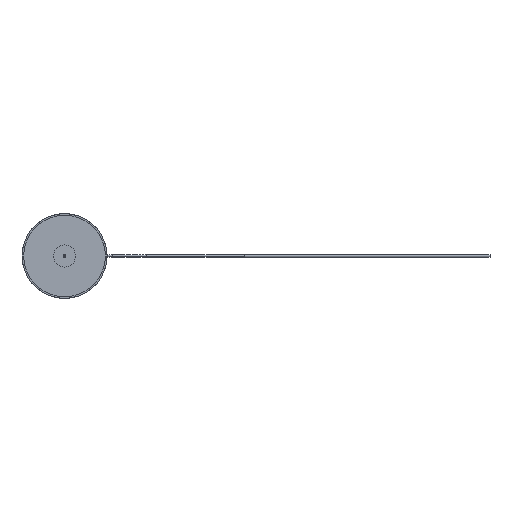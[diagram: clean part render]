
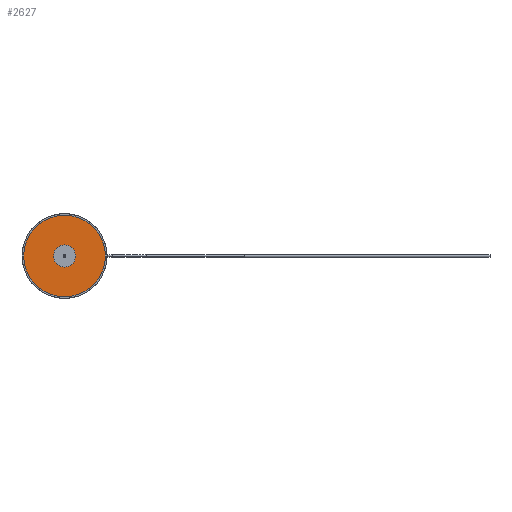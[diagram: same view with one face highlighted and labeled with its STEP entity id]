
A CAD part, front view. The second image highlights one B-rep face of the part: STEP entity #2627.
In plain terms, the highlighted planar face has unit normal (0, -1, 0).
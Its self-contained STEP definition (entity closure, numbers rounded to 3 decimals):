
#2582=CARTESIAN_POINT('',(0.,4.,0.));
#2583=DIRECTION('',(0.,1.,0.));
#2584=DIRECTION('',(1.,0.,0.));
#2585=AXIS2_PLACEMENT_3D('',#2582,#2583,#2584);
#2587=CARTESIAN_POINT('',(0.,4.,0.));
#2588=DIRECTION('',(0.,1.,0.));
#2589=DIRECTION('',(-1.,0.,0.));
#2590=AXIS2_PLACEMENT_3D('',#2587,#2588,#2589);
#2592=CARTESIAN_POINT('',(0.,4.,0.));
#2593=DIRECTION('',(0.,-1.,0.));
#2594=DIRECTION('',(1.,0.,0.));
#2595=AXIS2_PLACEMENT_3D('',#2592,#2593,#2594);
#2597=CARTESIAN_POINT('',(0.,4.,0.));
#2598=DIRECTION('',(0.,-1.,0.));
#2599=DIRECTION('',(-1.,0.,0.));
#2600=AXIS2_PLACEMENT_3D('',#2597,#2598,#2599);
#2602=CARTESIAN_POINT('',(120.,4.,0.));
#2603=CARTESIAN_POINT('',(-120.,4.,0.));
#2604=VERTEX_POINT('',#2602);
#2605=VERTEX_POINT('',#2603);
#2606=CARTESIAN_POINT('',(32.5,4.,0.));
#2607=CARTESIAN_POINT('',(-32.5,4.,0.));
#2608=VERTEX_POINT('',#2606);
#2609=VERTEX_POINT('',#2607);
#2610=CARTESIAN_POINT('',(0.,4.,0.));
#2611=DIRECTION('',(0.,1.,0.));
#2612=DIRECTION('',(1.,0.,0.));
#2613=AXIS2_PLACEMENT_3D('',#2610,#2611,#2612);
#2614=PLANE('',#2613);
#2616=ORIENTED_EDGE('',*,*,#2615,.T.);
#2618=ORIENTED_EDGE('',*,*,#2617,.T.);
#2619=EDGE_LOOP('',(#2616,#2618));
#2620=FACE_OUTER_BOUND('',#2619,.F.);
#2622=ORIENTED_EDGE('',*,*,#2621,.T.);
#2624=ORIENTED_EDGE('',*,*,#2623,.T.);
#2625=EDGE_LOOP('',(#2622,#2624));
#2626=FACE_BOUND('',#2625,.F.);
#2627=ADVANCED_FACE('',(#2620,#2626),#2614,.F.);
#2586=CIRCLE('',#2585,120.);
#2591=CIRCLE('',#2590,120.);
#2596=CIRCLE('',#2595,32.5);
#2601=CIRCLE('',#2600,32.5);
#2615=EDGE_CURVE('',#2604,#2605,#2586,.T.);
#2617=EDGE_CURVE('',#2605,#2604,#2591,.T.);
#2621=EDGE_CURVE('',#2608,#2609,#2596,.T.);
#2623=EDGE_CURVE('',#2609,#2608,#2601,.T.);
